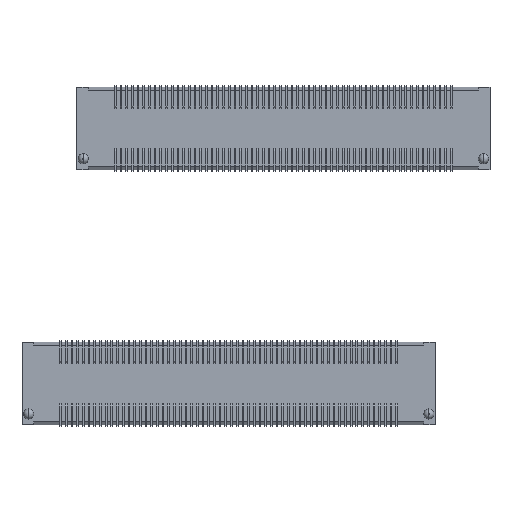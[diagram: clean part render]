
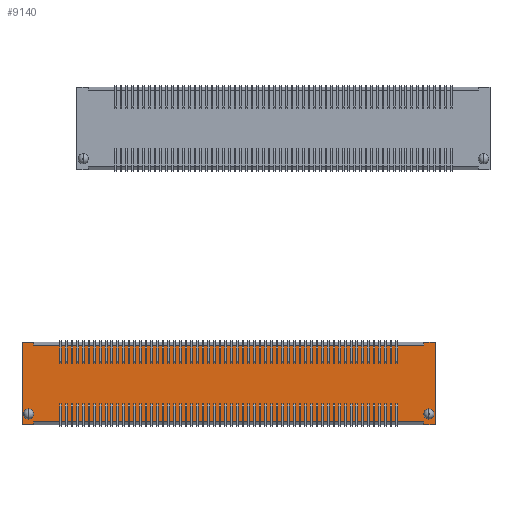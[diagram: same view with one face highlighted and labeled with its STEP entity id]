
A CAD part, front view. The second image highlights one B-rep face of the part: STEP entity #9140.
In plain terms, the highlighted planar face has unit normal (0, -1, 0).
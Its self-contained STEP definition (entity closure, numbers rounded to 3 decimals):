
#123 = EDGE_CURVE ( 'NONE', #18995, #35098, #7897, .T. ) ;
#404 = AXIS2_PLACEMENT_3D ( 'NONE', #57778, #18884, #32695 ) ;
#1594 = DIRECTION ( 'NONE',  ( -1., 0., 0. ) ) ;
#1792 = EDGE_CURVE ( 'NONE', #45929, #51079, #9426, .T. ) ;
#2368 = EDGE_LOOP ( 'NONE', ( #17288, #30841 ) ) ;
#2489 = EDGE_CURVE ( 'NONE', #51425, #31928, #30678, .T. ) ;
#2727 = ORIENTED_EDGE ( 'NONE', *, *, #30582, .T. ) ;
#3199 = VERTEX_POINT ( 'NONE', #10656 ) ;
#3309 = CARTESIAN_POINT ( 'NONE',  ( 17.122, 0.203, 3.619 ) ) ;
#3645 = CARTESIAN_POINT ( 'NONE',  ( 17.122, 0.203, 0. ) ) ;
#4170 = DIRECTION ( 'NONE',  ( 0., -1., 0. ) ) ;
#4362 = EDGE_CURVE ( 'NONE', #45929, #40111, #47670, .T. ) ;
#4493 = DIRECTION ( 'NONE',  ( 0., 1., 0. ) ) ;
#4613 = DIRECTION ( 'NONE',  ( 1., 0., 0. ) ) ;
#4921 = CARTESIAN_POINT ( 'NONE',  ( -18.138, 0.203, 3.619 ) ) ;
#5347 = CIRCLE ( 'NONE', #21778, 0.445 ) ;
#5541 = ORIENTED_EDGE ( 'NONE', *, *, #26287, .F. ) ;
#6417 = VECTOR ( 'NONE', #47892, 1000. ) ;
#6780 = DIRECTION ( 'NONE',  ( 0., -1., 0. ) ) ;
#7086 = CARTESIAN_POINT ( 'NONE',  ( 17.122, 0.203, -3.365 ) ) ;
#7897 = LINE ( 'NONE', #38092, #47438 ) ;
#7993 = LINE ( 'NONE', #53002, #54707 ) ;
#8698 = DIRECTION ( 'NONE',  ( 0., 0., -1. ) ) ;
#9140 = ADVANCED_FACE ( 'NONE', ( #9312, #54298, #23777 ), #9943, .F. ) ;
#9312 = FACE_BOUND ( 'NONE', #2368, .T. ) ;
#9315 = VERTEX_POINT ( 'NONE', #59427 ) ;
#9426 = LINE ( 'NONE', #4921, #12108 ) ;
#9943 = PLANE ( 'NONE',  #43371 ) ;
#10124 = EDGE_CURVE ( 'NONE', #31928, #51425, #15768, .T. ) ;
#10212 = LINE ( 'NONE', #59073, #49604 ) ;
#10656 = CARTESIAN_POINT ( 'NONE',  ( -17.122, 0.203, 3.365 ) ) ;
#11442 = DIRECTION ( 'NONE',  ( 0., -1., 0. ) ) ;
#12108 = VECTOR ( 'NONE', #4613, 1000. ) ;
#13251 = ORIENTED_EDGE ( 'NONE', *, *, #123, .F. ) ;
#13596 = EDGE_LOOP ( 'NONE', ( #13851, #38914 ) ) ;
#13851 = ORIENTED_EDGE ( 'NONE', *, *, #2489, .F. ) ;
#14260 = CARTESIAN_POINT ( 'NONE',  ( 18.138, 0.203, -3.619 ) ) ;
#14461 = CARTESIAN_POINT ( 'NONE',  ( 0., 0.203, 0. ) ) ;
#14770 = VECTOR ( 'NONE', #20659, 1000. ) ;
#15768 = CIRCLE ( 'NONE', #404, 0.445 ) ;
#16448 = VERTEX_POINT ( 'NONE', #23889 ) ;
#16728 = CARTESIAN_POINT ( 'NONE',  ( -17.567, 0.203, -2.667 ) ) ;
#17288 = ORIENTED_EDGE ( 'NONE', *, *, #30481, .F. ) ;
#17818 = VECTOR ( 'NONE', #20811, 1000. ) ;
#18659 = LINE ( 'NONE', #57875, #61547 ) ;
#18884 = DIRECTION ( 'NONE',  ( 0., -1., 0. ) ) ;
#18995 = VERTEX_POINT ( 'NONE', #28410 ) ;
#19031 = LINE ( 'NONE', #53747, #36518 ) ;
#19550 = CARTESIAN_POINT ( 'NONE',  ( 18.138, 0.203, 3.619 ) ) ;
#20340 = DIRECTION ( 'NONE',  ( -1., 0., 0. ) ) ;
#20514 = ORIENTED_EDGE ( 'NONE', *, *, #36098, .F. ) ;
#20659 = DIRECTION ( 'NONE',  ( 0., 0., -1. ) ) ;
#20811 = DIRECTION ( 'NONE',  ( -1., 0., 0. ) ) ;
#21778 = AXIS2_PLACEMENT_3D ( 'NONE', #16728, #6780, #35692 ) ;
#22110 = EDGE_CURVE ( 'NONE', #22199, #27154, #10212, .T. ) ;
#22199 = VERTEX_POINT ( 'NONE', #60650 ) ;
#23062 = EDGE_CURVE ( 'NONE', #27734, #3199, #39634, .T. ) ;
#23167 = ORIENTED_EDGE ( 'NONE', *, *, #50009, .T. ) ;
#23777 = FACE_OUTER_BOUND ( 'NONE', #49109, .T. ) ;
#23889 = CARTESIAN_POINT ( 'NONE',  ( -17.122, 0.203, -3.619 ) ) ;
#24369 = DIRECTION ( 'NONE',  ( -1., 0., 0. ) ) ;
#25551 = AXIS2_PLACEMENT_3D ( 'NONE', #59350, #11442, #35227 ) ;
#25800 = CARTESIAN_POINT ( 'NONE',  ( -17.122, 0.203, 3.619 ) ) ;
#26287 = EDGE_CURVE ( 'NONE', #16448, #18995, #38994, .T. ) ;
#27154 = VERTEX_POINT ( 'NONE', #43972 ) ;
#27272 = CARTESIAN_POINT ( 'NONE',  ( 17.122, 0.203, -3.365 ) ) ;
#27734 = VERTEX_POINT ( 'NONE', #25800 ) ;
#28410 = CARTESIAN_POINT ( 'NONE',  ( -18.138, 0.203, -3.619 ) ) ;
#28586 = CARTESIAN_POINT ( 'NONE',  ( -17.567, 0.203, -2.667 ) ) ;
#29421 = VERTEX_POINT ( 'NONE', #63536 ) ;
#30448 = CARTESIAN_POINT ( 'NONE',  ( -17.567, 0.203, -3.111 ) ) ;
#30481 = EDGE_CURVE ( 'NONE', #50132, #9315, #5347, .T. ) ;
#30582 = EDGE_CURVE ( 'NONE', #37180, #27154, #36951, .T. ) ;
#30678 = CIRCLE ( 'NONE', #25551, 0.445 ) ;
#30841 = ORIENTED_EDGE ( 'NONE', *, *, #54729, .F. ) ;
#31786 = ORIENTED_EDGE ( 'NONE', *, *, #22110, .F. ) ;
#31928 = VERTEX_POINT ( 'NONE', #59436 ) ;
#32695 = DIRECTION ( 'NONE',  ( 0., 0., 1. ) ) ;
#33168 = DIRECTION ( 'NONE',  ( 0., 0., -1. ) ) ;
#35098 = VERTEX_POINT ( 'NONE', #58341 ) ;
#35227 = DIRECTION ( 'NONE',  ( 0., 0., 1. ) ) ;
#35692 = DIRECTION ( 'NONE',  ( 0., 0., 1. ) ) ;
#36098 = EDGE_CURVE ( 'NONE', #37180, #29421, #41411, .T. ) ;
#36518 = VECTOR ( 'NONE', #33168, 1000. ) ;
#36951 = LINE ( 'NONE', #42101, #6417 ) ;
#37180 = VERTEX_POINT ( 'NONE', #7086 ) ;
#37597 = DIRECTION ( 'NONE',  ( 0., 0., 1. ) ) ;
#38092 = CARTESIAN_POINT ( 'NONE',  ( -18.138, 0.203, -3.619 ) ) ;
#38914 = ORIENTED_EDGE ( 'NONE', *, *, #10124, .F. ) ;
#38994 = LINE ( 'NONE', #14260, #47755 ) ;
#39109 = ORIENTED_EDGE ( 'NONE', *, *, #1792, .F. ) ;
#39188 = DIRECTION ( 'NONE',  ( 0., 0., 1. ) ) ;
#39304 = ORIENTED_EDGE ( 'NONE', *, *, #40570, .F. ) ;
#39634 = LINE ( 'NONE', #54429, #14770 ) ;
#40111 = VERTEX_POINT ( 'NONE', #52658 ) ;
#40570 = EDGE_CURVE ( 'NONE', #51079, #22199, #18659, .T. ) ;
#41411 = LINE ( 'NONE', #27272, #59085 ) ;
#41671 = CARTESIAN_POINT ( 'NONE',  ( 17.122, 0.203, 3.365 ) ) ;
#42101 = CARTESIAN_POINT ( 'NONE',  ( 17.122, 0.203, 0. ) ) ;
#42845 = DIRECTION ( 'NONE',  ( 0., 0., -1. ) ) ;
#43371 = AXIS2_PLACEMENT_3D ( 'NONE', #14461, #4493, #39188 ) ;
#43644 = LINE ( 'NONE', #41671, #17818 ) ;
#43972 = CARTESIAN_POINT ( 'NONE',  ( 17.122, 0.203, -3.619 ) ) ;
#45204 = ORIENTED_EDGE ( 'NONE', *, *, #23062, .F. ) ;
#45868 = ORIENTED_EDGE ( 'NONE', *, *, #4362, .T. ) ;
#45929 = VERTEX_POINT ( 'NONE', #3309 ) ;
#47438 = VECTOR ( 'NONE', #61895, 1000. ) ;
#47468 = ORIENTED_EDGE ( 'NONE', *, *, #50938, .F. ) ;
#47670 = LINE ( 'NONE', #3645, #52384 ) ;
#47755 = VECTOR ( 'NONE', #20340, 1000. ) ;
#47869 = AXIS2_PLACEMENT_3D ( 'NONE', #28586, #4170, #37597 ) ;
#47892 = DIRECTION ( 'NONE',  ( 0., 0., -1. ) ) ;
#49109 = EDGE_LOOP ( 'NONE', ( #39109, #45868, #23167, #45204, #47468, #13251, #5541, #54012, #20514, #2727, #31786, #39304 ) ) ;
#49604 = VECTOR ( 'NONE', #24369, 1000. ) ;
#50009 = EDGE_CURVE ( 'NONE', #40111, #3199, #43644, .T. ) ;
#50132 = VERTEX_POINT ( 'NONE', #30448 ) ;
#50938 = EDGE_CURVE ( 'NONE', #35098, #27734, #7993, .T. ) ;
#50942 = CIRCLE ( 'NONE', #47869, 0.445 ) ;
#51079 = VERTEX_POINT ( 'NONE', #19550 ) ;
#51425 = VERTEX_POINT ( 'NONE', #58372 ) ;
#52384 = VECTOR ( 'NONE', #42845, 1000. ) ;
#52658 = CARTESIAN_POINT ( 'NONE',  ( 17.122, 0.203, 3.365 ) ) ;
#53002 = CARTESIAN_POINT ( 'NONE',  ( -18.138, 0.203, 3.619 ) ) ;
#53747 = CARTESIAN_POINT ( 'NONE',  ( -17.122, 0.203, 0. ) ) ;
#54012 = ORIENTED_EDGE ( 'NONE', *, *, #54227, .F. ) ;
#54227 = EDGE_CURVE ( 'NONE', #29421, #16448, #19031, .T. ) ;
#54298 = FACE_BOUND ( 'NONE', #13596, .T. ) ;
#54429 = CARTESIAN_POINT ( 'NONE',  ( -17.122, 0.203, 0. ) ) ;
#54707 = VECTOR ( 'NONE', #62316, 1000. ) ;
#54729 = EDGE_CURVE ( 'NONE', #9315, #50132, #50942, .T. ) ;
#57778 = CARTESIAN_POINT ( 'NONE',  ( 17.567, 0.203, -2.667 ) ) ;
#57875 = CARTESIAN_POINT ( 'NONE',  ( 18.138, 0.203, 3.619 ) ) ;
#58341 = CARTESIAN_POINT ( 'NONE',  ( -18.138, 0.203, 3.619 ) ) ;
#58372 = CARTESIAN_POINT ( 'NONE',  ( 17.567, 0.203, -3.111 ) ) ;
#59073 = CARTESIAN_POINT ( 'NONE',  ( 18.138, 0.203, -3.619 ) ) ;
#59085 = VECTOR ( 'NONE', #1594, 1000. ) ;
#59350 = CARTESIAN_POINT ( 'NONE',  ( 17.567, 0.203, -2.667 ) ) ;
#59427 = CARTESIAN_POINT ( 'NONE',  ( -17.567, 0.203, -2.223 ) ) ;
#59436 = CARTESIAN_POINT ( 'NONE',  ( 17.567, 0.203, -2.223 ) ) ;
#60650 = CARTESIAN_POINT ( 'NONE',  ( 18.138, 0.203, -3.619 ) ) ;
#61547 = VECTOR ( 'NONE', #8698, 1000. ) ;
#61895 = DIRECTION ( 'NONE',  ( 0., 0., 1. ) ) ;
#62316 = DIRECTION ( 'NONE',  ( 1., 0., 0. ) ) ;
#63536 = CARTESIAN_POINT ( 'NONE',  ( -17.122, 0.203, -3.365 ) ) ;
